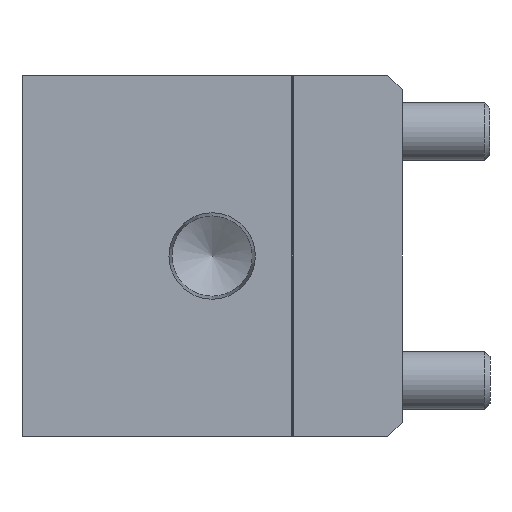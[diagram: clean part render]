
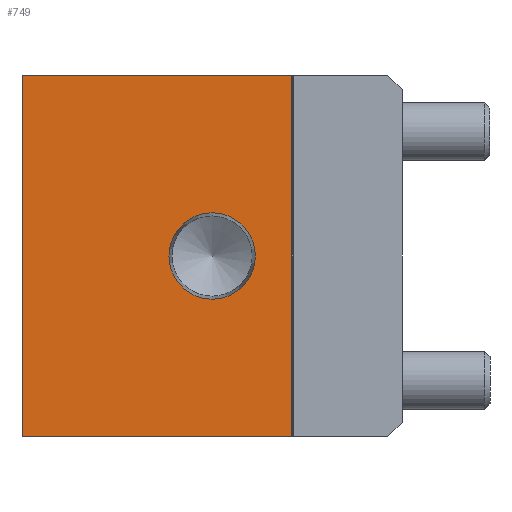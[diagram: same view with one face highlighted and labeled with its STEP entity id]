
A CAD part, left-side view. The second image highlights one B-rep face of the part: STEP entity #749.
In plain terms, the highlighted planar face has unit normal (-1, 0, 0).
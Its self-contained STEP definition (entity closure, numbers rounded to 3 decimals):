
#749 = ADVANCED_FACE( '', ( #1819, #1820 ), #1821, .F. );
#1819 = FACE_BOUND( '', #3338, .T. );
#1820 = FACE_OUTER_BOUND( '', #3339, .T. );
#1821 = PLANE( '', #3340 );
#3338 = EDGE_LOOP( '', ( #5133 ) );
#3339 = EDGE_LOOP( '', ( #5134, #5135, #5136, #5137 ) );
#3340 = AXIS2_PLACEMENT_3D( '', #5138, #5139, #5140 );
#5133 = ORIENTED_EDGE( '', *, *, #8319, .T. );
#5134 = ORIENTED_EDGE( '', *, *, #8320, .F. );
#5135 = ORIENTED_EDGE( '', *, *, #8321, .F. );
#5136 = ORIENTED_EDGE( '', *, *, #8064, .T. );
#5137 = ORIENTED_EDGE( '', *, *, #8322, .T. );
#5138 = CARTESIAN_POINT( '', ( 0., 52., 24.75 ) );
#5139 = DIRECTION( '', ( 1., 0., 0. ) );
#5140 = DIRECTION( '', ( 0., 0., -1. ) );
#8064 = EDGE_CURVE( '', #9388, #9386, #9389, .T. );
#8319 = EDGE_CURVE( '', #9822, #9822, #9823, .T. );
#8320 = EDGE_CURVE( '', #9824, #9825, #9826, .T. );
#8321 = EDGE_CURVE( '', #9388, #9824, #9827, .T. );
#8322 = EDGE_CURVE( '', #9386, #9825, #9828, .T. );
#9386 = VERTEX_POINT( '', #11211 );
#9388 = VERTEX_POINT( '', #11214 );
#9389 = LINE( '', #11215, #11216 );
#9822 = VERTEX_POINT( '', #11770 );
#9823 = CIRCLE( '', #11771, 5.91 );
#9824 = VERTEX_POINT( '', #11772 );
#9825 = VERTEX_POINT( '', #11773 );
#9826 = LINE( '', #11774, #11775 );
#9827 = LINE( '', #11776, #11777 );
#9828 = LINE( '', #11778, #11779 );
#11211 = CARTESIAN_POINT( '', ( 0., 52., -24.75 ) );
#11214 = CARTESIAN_POINT( '', ( 0., 52., 24.75 ) );
#11215 = CARTESIAN_POINT( '', ( 0., 52., 24.75 ) );
#11216 = VECTOR( '', #13523, 1000. );
#11770 = CARTESIAN_POINT( '', ( 0., 26., -5.91 ) );
#11771 = AXIS2_PLACEMENT_3D( '', #13879, #13880, #13881 );
#11772 = CARTESIAN_POINT( '', ( 0., 15.1, 24.75 ) );
#11773 = CARTESIAN_POINT( '', ( 0., 15.1, -24.75 ) );
#11774 = CARTESIAN_POINT( '', ( 0., 15.1, 24.75 ) );
#11775 = VECTOR( '', #13882, 1000. );
#11776 = CARTESIAN_POINT( '', ( 0., 52., 24.75 ) );
#11777 = VECTOR( '', #13883, 1000. );
#11778 = CARTESIAN_POINT( '', ( 0., 52., -24.75 ) );
#11779 = VECTOR( '', #13884, 1000. );
#13523 = DIRECTION( '', ( 0., 0., -1. ) );
#13879 = CARTESIAN_POINT( '', ( 0., 26., 0. ) );
#13880 = DIRECTION( '', ( 1., 0., 0. ) );
#13881 = DIRECTION( '', ( 0., 0., -1. ) );
#13882 = DIRECTION( '', ( 0., 0., -1. ) );
#13883 = DIRECTION( '', ( 0., -1., 0. ) );
#13884 = DIRECTION( '', ( 0., -1., 0. ) );
